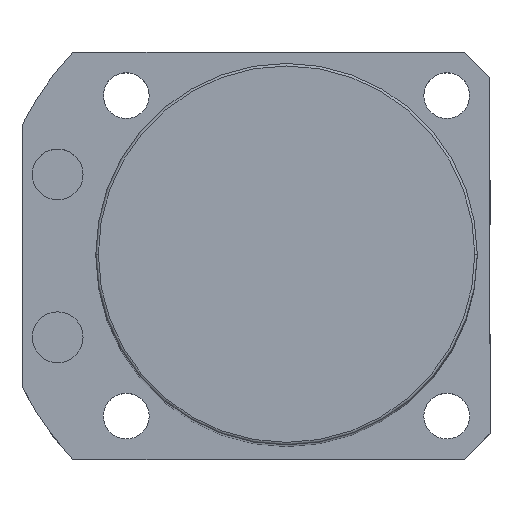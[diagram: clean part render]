
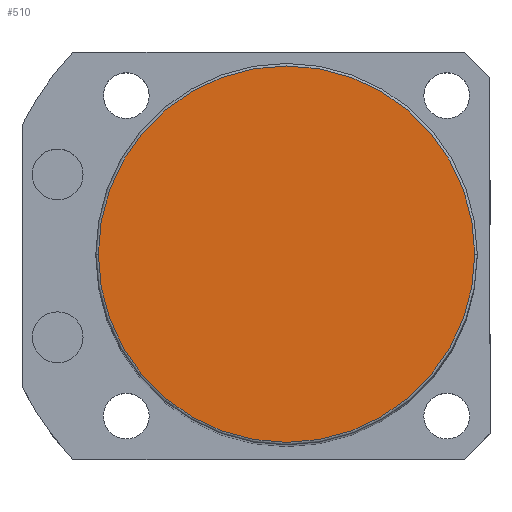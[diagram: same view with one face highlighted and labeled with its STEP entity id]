
A CAD part, top view. The second image highlights one B-rep face of the part: STEP entity #510.
In plain terms, the highlighted planar face has unit normal (0, 0, 1).
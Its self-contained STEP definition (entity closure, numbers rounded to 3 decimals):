
#107 = CARTESIAN_POINT ( 'NONE',  ( 0., 0., 210.5 ) ) ;
#117 = AXIS2_PLACEMENT_3D ( 'NONE', #2417, #163, #588 ) ;
#147 = CARTESIAN_POINT ( 'NONE',  ( 37., 0., 210.5 ) ) ;
#163 = DIRECTION ( 'NONE',  ( 0., 0., 1. ) ) ;
#184 = FACE_OUTER_BOUND ( 'NONE', #1369, .T. ) ;
#377 = CIRCLE ( 'NONE', #1466, 37. ) ;
#510 = ADVANCED_FACE ( 'NONE', ( #184 ), #2117, .T. ) ;
#588 = DIRECTION ( 'NONE',  ( 1., 0., 0. ) ) ;
#640 = CARTESIAN_POINT ( 'NONE',  ( -37., 0., 210.5 ) ) ;
#705 = DIRECTION ( 'NONE',  ( 1., 0., 0. ) ) ;
#711 = DIRECTION ( 'NONE',  ( 0., 0., 1. ) ) ;
#986 = CARTESIAN_POINT ( 'NONE',  ( 0., 0., 210.5 ) ) ;
#1369 = EDGE_LOOP ( 'NONE', ( #2609, #1891 ) ) ;
#1371 = DIRECTION ( 'NONE',  ( 1., 0., 0. ) ) ;
#1466 = AXIS2_PLACEMENT_3D ( 'NONE', #986, #1610, #1371 ) ;
#1573 = VERTEX_POINT ( 'NONE', #147 ) ;
#1610 = DIRECTION ( 'NONE',  ( 0., 0., 1. ) ) ;
#1733 = EDGE_CURVE ( 'NONE', #1573, #1834, #2207, .T. ) ;
#1823 = AXIS2_PLACEMENT_3D ( 'NONE', #107, #711, #705 ) ;
#1834 = VERTEX_POINT ( 'NONE', #640 ) ;
#1891 = ORIENTED_EDGE ( 'NONE', *, *, #2261, .T. ) ;
#2117 = PLANE ( 'NONE',  #1823 ) ;
#2207 = CIRCLE ( 'NONE', #117, 37. ) ;
#2261 = EDGE_CURVE ( 'NONE', #1834, #1573, #377, .T. ) ;
#2417 = CARTESIAN_POINT ( 'NONE',  ( 0., 0., 210.5 ) ) ;
#2609 = ORIENTED_EDGE ( 'NONE', *, *, #1733, .T. ) ;
